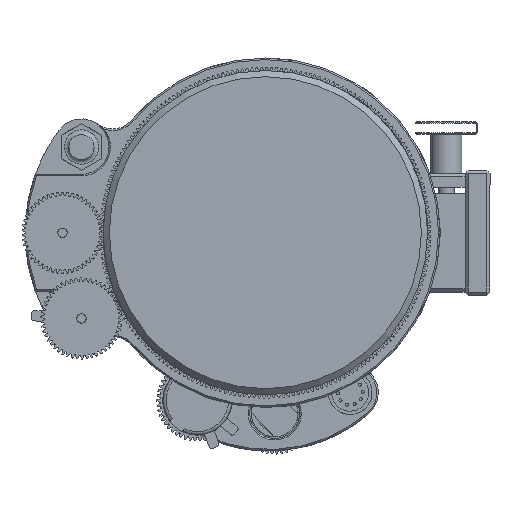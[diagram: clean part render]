
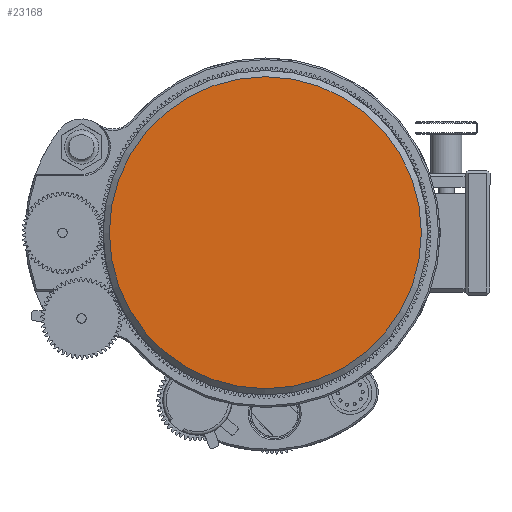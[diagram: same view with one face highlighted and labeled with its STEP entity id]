
A CAD part, left-side view. The second image highlights one B-rep face of the part: STEP entity #23168.
In plain terms, the highlighted planar face has unit normal (-1, 0, 0).
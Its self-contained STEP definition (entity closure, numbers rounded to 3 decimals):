
#23148=CARTESIAN_POINT('',(-173.682,50.,0.));
#23149=VERTEX_POINT('',#23148);
#23150=CARTESIAN_POINT('',(-173.682,0.,0.));
#23151=DIRECTION('',(1.0,0.0,0.0));
#23152=DIRECTION('',(0.0,-1.0,0.0));
#23153=AXIS2_PLACEMENT_3D('',#23150,#23151,#23152);
#23154=CIRCLE('',#23153,50.);
#23155=EDGE_CURVE('',#23149,#23149,#23154,.T.);
#23160=CARTESIAN_POINT('',(-173.682,49.75,0.));
#23161=DIRECTION('',(-1.0,0.0,0.0));
#23162=DIRECTION('',(0.0,0.0,-1.0));
#23163=AXIS2_PLACEMENT_3D('',#23160,#23161,#23162);
#23164=PLANE('',#23163);
#23165=ORIENTED_EDGE('',*,*,#23155,.F.);
#23166=EDGE_LOOP('',(#23165));
#23167=FACE_OUTER_BOUND('',#23166,.T.);
#23168=ADVANCED_FACE('',(#23167),#23164,.T.);
